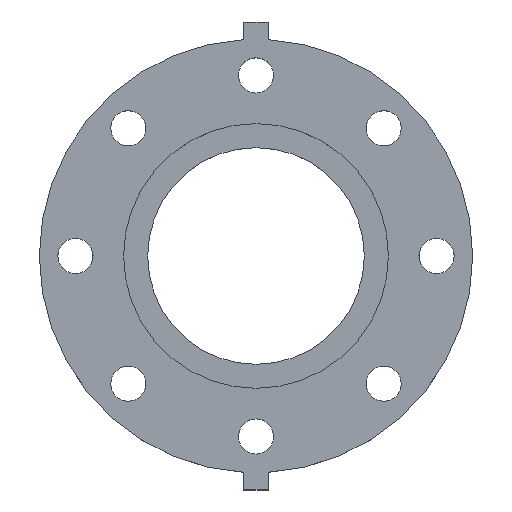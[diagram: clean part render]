
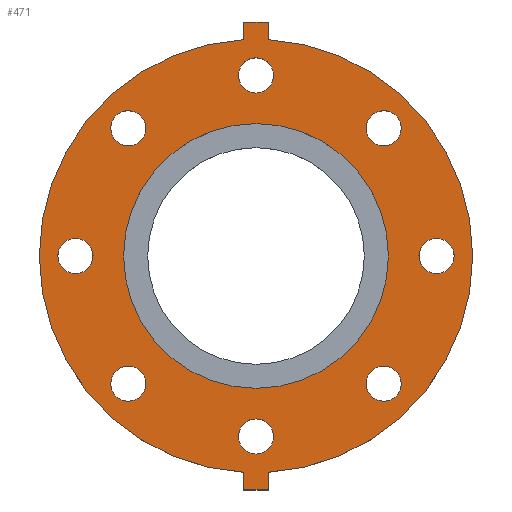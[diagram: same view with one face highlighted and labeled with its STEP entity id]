
A CAD part, top view. The second image highlights one B-rep face of the part: STEP entity #471.
In plain terms, the highlighted planar face has unit normal (0, 0, 1).
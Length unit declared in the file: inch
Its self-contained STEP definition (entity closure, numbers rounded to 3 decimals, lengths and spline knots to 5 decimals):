
#67=FACE_BOUND('',#152,.T.);
#68=FACE_BOUND('',#153,.T.);
#69=FACE_BOUND('',#154,.T.);
#70=FACE_BOUND('',#155,.T.);
#71=FACE_BOUND('',#156,.T.);
#72=FACE_BOUND('',#157,.T.);
#73=FACE_BOUND('',#158,.T.);
#74=FACE_BOUND('',#159,.T.);
#75=FACE_BOUND('',#160,.T.);
#87=CIRCLE('',#508,4.5);
#88=CIRCLE('',#513,0.365);
#89=CIRCLE('',#515,0.365);
#90=CIRCLE('',#517,0.365);
#91=CIRCLE('',#519,0.365);
#92=CIRCLE('',#521,0.365);
#93=CIRCLE('',#523,0.365);
#94=CIRCLE('',#525,0.365);
#95=CIRCLE('',#527,0.365);
#98=CIRCLE('',#533,2.75);
#99=CIRCLE('',#535,4.5);
#120=FACE_OUTER_BOUND('',#151,.T.);
#151=EDGE_LOOP('',(#402,#403,#404,#405,#406,#407,#408,#409));
#152=EDGE_LOOP('',(#410));
#153=EDGE_LOOP('',(#411));
#154=EDGE_LOOP('',(#412));
#155=EDGE_LOOP('',(#413));
#156=EDGE_LOOP('',(#414));
#157=EDGE_LOOP('',(#415));
#158=EDGE_LOOP('',(#416));
#159=EDGE_LOOP('',(#417));
#160=EDGE_LOOP('',(#418));
#162=LINE('',#704,#192);
#168=LINE('',#716,#198);
#170=LINE('',#719,#200);
#175=LINE('',#754,#205);
#179=LINE('',#761,#209);
#180=LINE('',#763,#210);
#192=VECTOR('',#555,0.3937);
#198=VECTOR('',#563,0.3937);
#200=VECTOR('',#567,0.3937);
#205=VECTOR('',#602,0.3937);
#209=VECTOR('',#608,0.3937);
#210=VECTOR('',#611,0.3937);
#221=VERTEX_POINT('',#700);
#223=VERTEX_POINT('',#703);
#226=VERTEX_POINT('',#710);
#228=VERTEX_POINT('',#714);
#242=VERTEX_POINT('',#749);
#243=VERTEX_POINT('',#753);
#244=VERTEX_POINT('',#757);
#245=VERTEX_POINT('',#759);
#246=VERTEX_POINT('',#765);
#247=VERTEX_POINT('',#769);
#248=VERTEX_POINT('',#773);
#249=VERTEX_POINT('',#777);
#250=VERTEX_POINT('',#781);
#251=VERTEX_POINT('',#785);
#252=VERTEX_POINT('',#789);
#253=VERTEX_POINT('',#793);
#256=VERTEX_POINT('',#804);
#258=EDGE_CURVE('',#221,#223,#162,.T.);
#264=EDGE_CURVE('',#228,#226,#168,.T.);
#266=EDGE_CURVE('',#223,#228,#170,.T.);
#281=EDGE_CURVE('',#242,#226,#87,.T.);
#283=EDGE_CURVE('',#243,#242,#175,.T.);
#287=EDGE_CURVE('',#244,#245,#179,.T.);
#288=EDGE_CURVE('',#245,#243,#180,.T.);
#290=EDGE_CURVE('',#246,#246,#88,.T.);
#292=EDGE_CURVE('',#247,#247,#89,.T.);
#294=EDGE_CURVE('',#248,#248,#90,.T.);
#296=EDGE_CURVE('',#249,#249,#91,.T.);
#298=EDGE_CURVE('',#250,#250,#92,.T.);
#300=EDGE_CURVE('',#251,#251,#93,.T.);
#302=EDGE_CURVE('',#252,#252,#94,.T.);
#304=EDGE_CURVE('',#253,#253,#95,.T.);
#309=EDGE_CURVE('',#256,#256,#98,.T.);
#310=EDGE_CURVE('',#221,#244,#99,.T.);
#402=ORIENTED_EDGE('',*,*,#310,.T.);
#403=ORIENTED_EDGE('',*,*,#287,.T.);
#404=ORIENTED_EDGE('',*,*,#288,.T.);
#405=ORIENTED_EDGE('',*,*,#283,.T.);
#406=ORIENTED_EDGE('',*,*,#281,.T.);
#407=ORIENTED_EDGE('',*,*,#264,.F.);
#408=ORIENTED_EDGE('',*,*,#266,.F.);
#409=ORIENTED_EDGE('',*,*,#258,.F.);
#410=ORIENTED_EDGE('',*,*,#290,.T.);
#411=ORIENTED_EDGE('',*,*,#292,.T.);
#412=ORIENTED_EDGE('',*,*,#294,.T.);
#413=ORIENTED_EDGE('',*,*,#296,.T.);
#414=ORIENTED_EDGE('',*,*,#298,.T.);
#415=ORIENTED_EDGE('',*,*,#300,.T.);
#416=ORIENTED_EDGE('',*,*,#302,.T.);
#417=ORIENTED_EDGE('',*,*,#304,.T.);
#418=ORIENTED_EDGE('',*,*,#309,.T.);
#427=PLANE('',#536);
#471=ADVANCED_FACE('',(#120,#67,#68,#69,#70,#71,#72,#73,#74,#75),#427,.T.);
#508=AXIS2_PLACEMENT_3D('',#750,#597,#598);
#513=AXIS2_PLACEMENT_3D('',#767,#615,#616);
#515=AXIS2_PLACEMENT_3D('',#771,#620,#621);
#517=AXIS2_PLACEMENT_3D('',#775,#625,#626);
#519=AXIS2_PLACEMENT_3D('',#779,#630,#631);
#521=AXIS2_PLACEMENT_3D('',#783,#635,#636);
#523=AXIS2_PLACEMENT_3D('',#787,#640,#641);
#525=AXIS2_PLACEMENT_3D('',#791,#645,#646);
#527=AXIS2_PLACEMENT_3D('',#795,#650,#651);
#533=AXIS2_PLACEMENT_3D('',#806,#664,#665);
#535=AXIS2_PLACEMENT_3D('',#808,#668,#669);
#536=AXIS2_PLACEMENT_3D('',#809,#670,#671);
#555=DIRECTION('',(0.,-1.,0.));
#563=DIRECTION('',(0.,1.,0.));
#567=DIRECTION('',(-1.,0.,0.));
#597=DIRECTION('center_axis',(0.,0.,1.));
#598=DIRECTION('ref_axis',(-1.,0.,0.));
#602=DIRECTION('',(0.,-1.,0.));
#608=DIRECTION('',(0.,1.,0.));
#611=DIRECTION('',(-1.,0.,0.));
#615=DIRECTION('center_axis',(0.,0.,-1.));
#616=DIRECTION('ref_axis',(-0.707,0.707,0.));
#620=DIRECTION('center_axis',(0.,0.,-1.));
#621=DIRECTION('ref_axis',(0.,1.,0.));
#625=DIRECTION('center_axis',(0.,0.,-1.));
#626=DIRECTION('ref_axis',(0.707,0.707,0.));
#630=DIRECTION('center_axis',(0.,0.,-1.));
#631=DIRECTION('ref_axis',(1.,0.,0.));
#635=DIRECTION('center_axis',(0.,0.,-1.));
#636=DIRECTION('ref_axis',(0.707,-0.707,0.));
#640=DIRECTION('center_axis',(0.,0.,-1.));
#641=DIRECTION('ref_axis',(0.,-1.,0.));
#645=DIRECTION('center_axis',(0.,0.,-1.));
#646=DIRECTION('ref_axis',(-0.707,-0.707,0.));
#650=DIRECTION('center_axis',(0.,0.,-1.));
#651=DIRECTION('ref_axis',(-1.,0.,0.));
#664=DIRECTION('center_axis',(0.,0.,-1.));
#665=DIRECTION('ref_axis',(-1.,0.,0.));
#668=DIRECTION('center_axis',(0.,0.,1.));
#669=DIRECTION('ref_axis',(-1.,0.,0.));
#670=DIRECTION('center_axis',(0.,0.,1.));
#671=DIRECTION('ref_axis',(1.,0.,0.));
#700=CARTESIAN_POINT('',(0.25,-4.49305,0.94));
#703=CARTESIAN_POINT('',(0.25,-4.86,0.94));
#704=CARTESIAN_POINT('',(0.25,-4.86,0.94));
#710=CARTESIAN_POINT('',(-0.25,-4.49305,0.94));
#714=CARTESIAN_POINT('',(-0.25,-4.86,0.94));
#716=CARTESIAN_POINT('',(-0.25,-4.215,0.94));
#719=CARTESIAN_POINT('',(-0.25,-4.86,0.94));
#749=CARTESIAN_POINT('',(-0.25,4.49305,0.94));
#750=CARTESIAN_POINT('Origin',(0.,0.,0.94));
#753=CARTESIAN_POINT('',(-0.25,4.86,0.94));
#754=CARTESIAN_POINT('',(-0.25,4.215,0.94));
#757=CARTESIAN_POINT('',(0.25,4.49305,0.94));
#759=CARTESIAN_POINT('',(0.25,4.86,0.94));
#761=CARTESIAN_POINT('',(0.25,4.86,0.94));
#763=CARTESIAN_POINT('',(-0.25,4.86,0.94));
#765=CARTESIAN_POINT('',(2.90974,2.39356,0.94));
#767=CARTESIAN_POINT('Origin',(2.65165,2.65165,0.94));
#769=CARTESIAN_POINT('',(3.75,-0.365,0.94));
#771=CARTESIAN_POINT('Origin',(3.75,0.,0.94));
#773=CARTESIAN_POINT('',(2.39356,-2.90974,0.94));
#775=CARTESIAN_POINT('Origin',(2.65165,-2.65165,0.94));
#777=CARTESIAN_POINT('',(-0.365,-3.75,0.94));
#779=CARTESIAN_POINT('Origin',(0.,-3.75,0.94));
#781=CARTESIAN_POINT('',(-2.90974,-2.39356,0.94));
#783=CARTESIAN_POINT('Origin',(-2.65165,-2.65165,0.94));
#785=CARTESIAN_POINT('',(-3.75,0.365,0.94));
#787=CARTESIAN_POINT('Origin',(-3.75,0.,0.94));
#789=CARTESIAN_POINT('',(-2.39356,2.90974,0.94));
#791=CARTESIAN_POINT('Origin',(-2.65165,2.65165,0.94));
#793=CARTESIAN_POINT('',(0.365,3.75,0.94));
#795=CARTESIAN_POINT('Origin',(0.,3.75,0.94));
#804=CARTESIAN_POINT('',(2.75,0.,0.94));
#806=CARTESIAN_POINT('Origin',(0.,0.,0.94));
#808=CARTESIAN_POINT('Origin',(0.,0.,0.94));
#809=CARTESIAN_POINT('Origin',(0.,0.,0.94));
